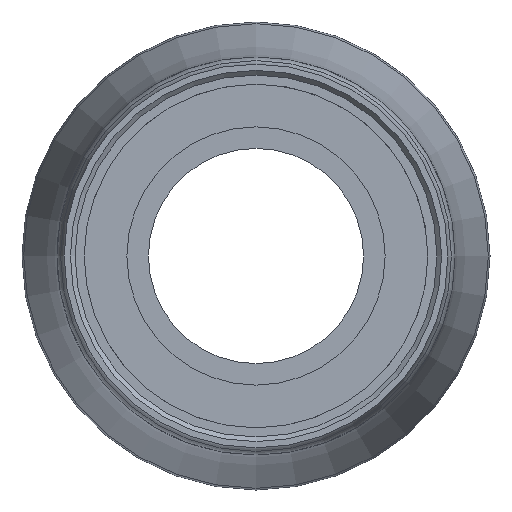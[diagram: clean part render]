
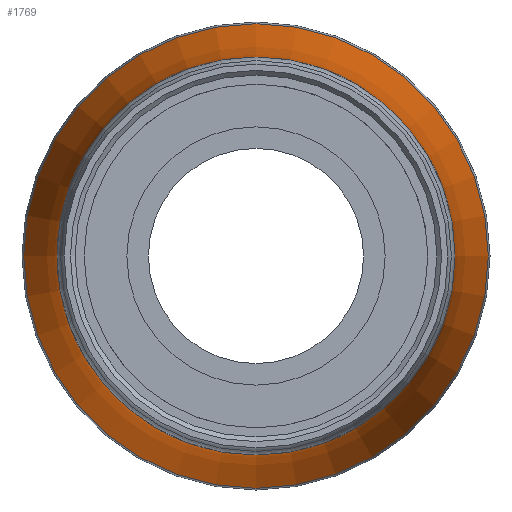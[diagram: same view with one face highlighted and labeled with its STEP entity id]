
A CAD part, left-side view. The second image highlights one B-rep face of the part: STEP entity #1769.
In plain terms, the highlighted toroidal (fillet/blend) face has major radius 139.577 mm and minor radius 114.927 mm.
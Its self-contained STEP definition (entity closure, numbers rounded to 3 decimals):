
#18=TOROIDAL_SURFACE('',#1968,139.577,114.927);
#267=FACE_BOUND('',#502,.T.);
#372=FACE_OUTER_BOUND('',#501,.T.);
#501=EDGE_LOOP('',(#1521));
#502=EDGE_LOOP('',(#1522));
#557=CIRCLE('',#1858,24.65);
#558=CIRCLE('',#1860,28.791);
#729=VERTEX_POINT('',#2914);
#730=VERTEX_POINT('',#2917);
#901=EDGE_CURVE('',#729,#729,#557,.T.);
#902=EDGE_CURVE('',#730,#730,#558,.T.);
#1521=ORIENTED_EDGE('',*,*,#902,.F.);
#1522=ORIENTED_EDGE('',*,*,#901,.T.);
#1769=ADVANCED_FACE('',(#372,#267),#18,.F.);
#1858=AXIS2_PLACEMENT_3D('',#2915,#2159,#2160);
#1860=AXIS2_PLACEMENT_3D('',#2918,#2163,#2164);
#1968=AXIS2_PLACEMENT_3D('',#3864,#2443,#2444);
#2159=DIRECTION('center_axis',(1.,0.,0.));
#2160=DIRECTION('ref_axis',(0.,0.,-1.));
#2163=DIRECTION('center_axis',(1.,0.,0.));
#2164=DIRECTION('ref_axis',(0.,-1.,0.));
#2443=DIRECTION('center_axis',(1.,0.,0.));
#2444=DIRECTION('ref_axis',(0.,0.,-1.));
#2914=CARTESIAN_POINT('',(41.,24.65,0.));
#2915=CARTESIAN_POINT('Origin',(41.,0.,0.));
#2917=CARTESIAN_POINT('',(71.573,28.791,0.));
#2918=CARTESIAN_POINT('Origin',(71.573,0.,0.));
#3864=CARTESIAN_POINT('Origin',(41.,0.,0.));
